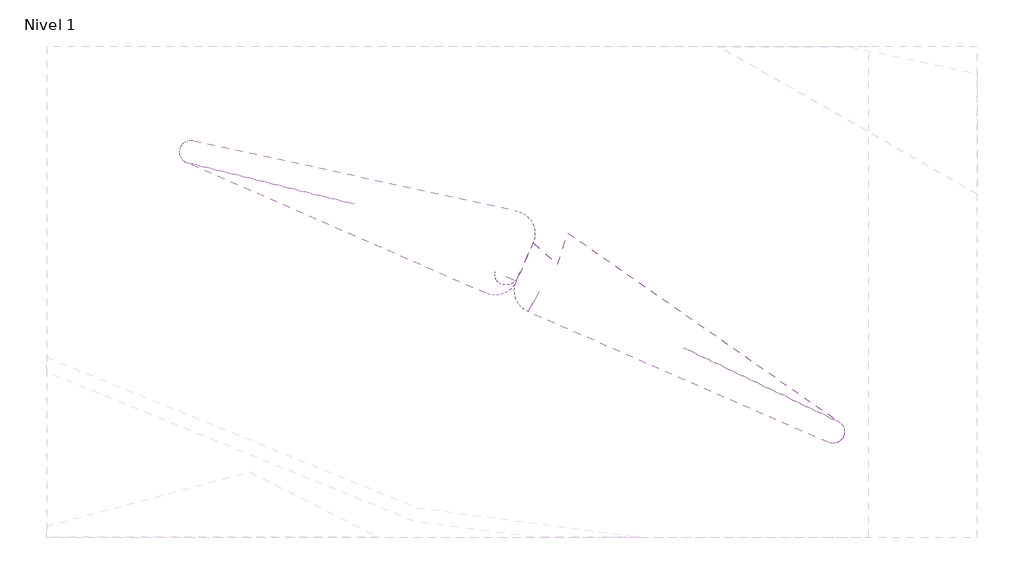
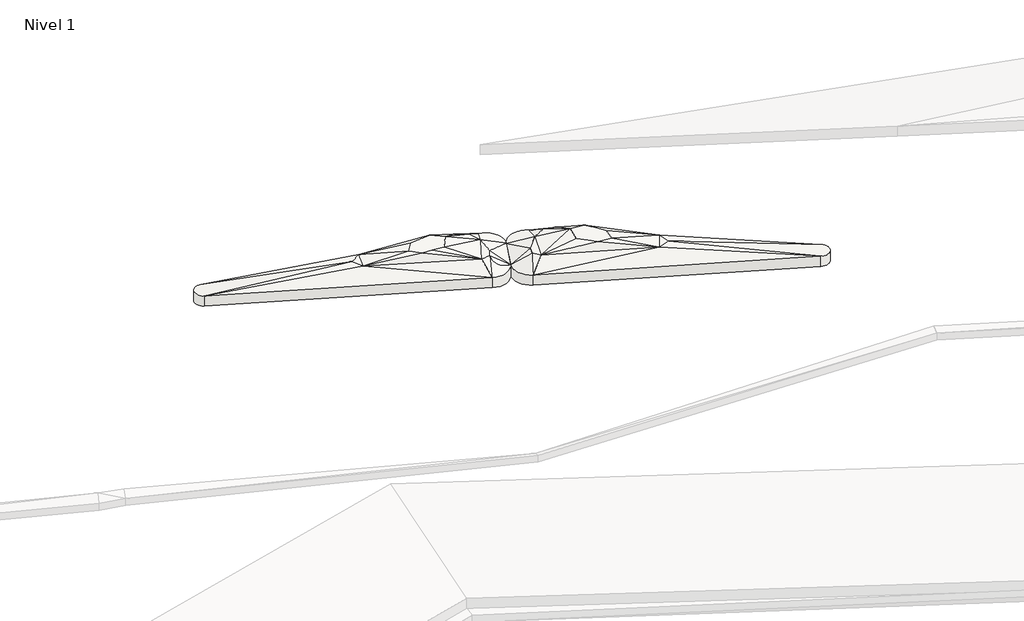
# One storey, part 5 of 45: 2 slabs.
"""IFC4 building model written with IfcOpenShell, lengths in millimetres."""

from ifc_helpers import new_model, si_unit, frame, origin, place, context, project, spatial, polyline, circle_curve, element, save
from ifc_brep_helpers import plane_surface, cylinder_surface, revolved_surface, spline_surface, advanced_brep

model = new_model("IFC4")

# Units and contexts
model_context = context("Model", 3, world=origin())
ifc_project = project(units=[si_unit("LENGTHUNIT", "METRE", prefix="MILLI")], contexts=[model_context])

# Site, building, storey
site = spatial("IfcSite", under=ifc_project)
building = spatial("IfcBuilding", under=site)
storey = spatial("IfcBuildingStorey", under=building, Name="Nivel 1", Elevation=0.0)

# Slabs
placement = place(None, origin())
element("IfcSlab", 1, ObjectType="Lippia", at=placement, inside=storey, context=model_context, shape_type="AdvancedBrep", body=[
    advanced_brep(
    [(-266436.9954868, -279796.5698564, 5200.0), (-266436.9954868, -279796.5698564, 5500.0), (-266080.1909589, -278977.5833169, 5500.0), (-266080.1909589, -278977.5833169, 5200.0), (-265334.7572833, -278767.8911903, 5500.0), (-265334.7572833, -278767.8911903, 5200.0), (-259539.6414001, -282803.3917584, 5500.0), (-259539.6414001, -282803.3917584, 5200.0), (-259783.5210915, -283237.2373408, 5200.0), (-259783.5210915, -283237.2373408, 5500.0), (-266178.7588919, -280450.930301, 5500.0), (-266178.7588919, -280450.930301, 5200.0), (-265554.3839523, -279433.7485007, 5800.0), (-265897.9113864, -279797.8444826, 5800.0), (-265554.3839523, -279433.7485007, 5500.0), (-265897.9113864, -279797.8444826, 5500.0), (-264086.1819932, -280334.0729657, 6000.0), (-264253.244329, -280097.3456845, 6000.0), (-264420.3066648, -279860.6184032, 6000.0), (-264797.5114532, -279824.2450052, 6000.0), (-264879.3945264, -280265.9703665, 6000.0), (-264669.5140962, -280464.3949465, 6000.0), (-264496.1786637, -280628.2692551, 6000.0), (-264124.1045599, -280667.4847596, 6000.0), (-264086.1819932, -280334.0729657, 5700.0), (-264124.1045599, -280667.4847596, 5700.0), (-264496.1786637, -280628.2692551, 5700.0), (-264669.5140962, -280464.3949465, 5700.0), (-264879.3945264, -280265.9703665, 5700.0), (-264797.5114532, -279824.2450052, 5700.0), (-264420.3066648, -279860.6184032, 5700.0), (-264253.244329, -280097.3456845, 5700.0), (-265812.8653929, -280199.9015581, 5800.0), (-265960.6536918, -280021.1394914, 5800.0), (-265812.8653929, -280199.9015581, 5500.0), (-265960.6536918, -280021.1394914, 5500.0), (-265227.4030927, -279275.0624162, 5800.0), (-265227.4030927, -279275.0624162, 5500.0), (-264879.3478395, -279379.7299694, 5800.0), (-262927.164911, -280893.6431045, 5800.0), (-262927.164911, -280893.6431045, 5500.0), (-264879.3478395, -279379.7299694, 5500.0), (-263178.2945002, -281321.222706, 5800.0), (-263178.2945002, -281321.222706, 5500.0), (-262864.7953573, -281217.7996345, 5800.0), (-262864.7953573, -281217.7996345, 5500.0)],
    [
        (0, 1),
        (1, 2),
        (2, 3),
        (3, 0),
        (2, 4, circle_curve(frame((-265621.8009566, -279177.2882211, 5500.0), z_axis=(0.0, 0.0, -1.0), x_axis=(0.3166549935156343, 0.9485407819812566, 0.0)), 499.9999992)),
        (4, 5),
        (5, 3, circle_curve(frame((-265621.8009566, -279177.2882211, 5200.0), z_axis=(0.0, 0.0, 1.0), x_axis=(0.3166549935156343, 0.9485407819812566, 0.0)), 499.9999992)),
        (4, 6),
        (6, 7),
        (7, 5),
        (8, 9),
        (9, 10),
        (10, 11),
        (11, 8),
        (10, 1, circle_curve(frame((-265977.3251654, -279993.3011345, 5500.0), z_axis=(0.0, 0.0, -1.0), x_axis=(0.3166549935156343, 0.9485407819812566, 0.0)), 500.0000001)),
        (0, 11, circle_curve(frame((-265977.3251654, -279993.3011345, 5200.0), z_axis=(0.0, 0.0, 1.0), x_axis=(0.3166549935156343, 0.9485407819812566, 0.0)), 500.0000001)),
        (2, 12),
        (12, 4),
        (1, 13),
        (13, 2),
        (5, 14),
        (14, 3),
        (3, 15),
        (15, 0),
        (16, 17),
        (17, 18),
        (18, 19),
        (19, 20),
        (20, 21),
        (21, 22),
        (22, 23),
        (23, 16),
        (24, 25),
        (25, 26),
        (26, 27),
        (27, 28),
        (28, 29),
        (29, 30),
        (30, 31),
        (31, 24),
        (20, 32),
        (32, 22),
        (10, 32),
        (32, 33),
        (33, 10),
        (19, 32),
        (26, 34),
        (34, 28),
        (11, 35),
        (35, 34),
        (34, 11),
        (34, 29),
        (32, 12),
        (12, 13),
        (13, 33),
        (19, 12),
        (12, 36),
        (36, 4),
        (35, 15),
        (15, 14),
        (14, 34),
        (14, 29),
        (5, 37),
        (37, 14),
        (4, 38),
        (38, 39),
        (39, 4),
        (19, 38),
        (38, 36),
        (36, 19),
        (5, 40),
        (40, 41),
        (41, 5),
        (29, 37),
        (37, 41),
        (41, 29),
        (22, 42),
        (42, 23),
        (23, 39),
        (39, 16),
        (39, 18),
        (25, 43),
        (43, 26),
        (24, 40),
        (40, 25),
        (30, 40),
        (42, 39),
        (40, 43),
        (1, 33),
        (35, 0),
        (10, 42),
        (42, 32),
        (42, 44),
        (44, 39),
        (18, 38),
        (34, 43),
        (43, 11),
        (40, 45),
        (45, 43),
        (41, 30),
        (6, 9, circle_curve(frame((-259682.5081754, -283008.5533001, 5500.0), z_axis=(0.0, 0.0, -1.0), x_axis=(0.3166549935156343, 0.9485407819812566, 0.0)), 249.9999994)),
        (8, 7, circle_curve(frame((-259682.5081754, -283008.5533001, 5200.0), z_axis=(0.0, 0.0, 1.0), x_axis=(0.3166549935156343, 0.9485407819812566, 0.0)), 249.9999994)),
        (9, 42),
        (9, 44),
        (6, 44),
        (6, 39),
        (43, 8),
        (45, 8),
        (45, 7),
        (40, 7),
    ],
    [
        plane_surface(frame((-266436.9954868, -279796.5698564, 5200.0), z_axis=(-0.9167736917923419, 0.3994070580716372, 0.0), x_axis=(0.0, 0.0, 1.0))),
        cylinder_surface(frame((-265621.8009566, -279177.2882211, 5500.0), z_axis=(0.0, 0.0, -1.0000000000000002), x_axis=(0.3166549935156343, 0.9485407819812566, 0.0)), 499.9999992),
        plane_surface(frame((-265334.7572833, -278767.8911903, 5200.0), z_axis=(0.5714571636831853, 0.820631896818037, 0.0), x_axis=(0.0, 0.0, 1.0))),
        plane_surface(frame((-259783.5210915, -283237.2373408, 5200.0), z_axis=(-0.3994214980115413, -0.9167674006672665, 0.0), x_axis=(0.0, 0.0, 1.0))),
        cylinder_surface(frame((-265977.3251654, -279993.3011345, 5500.0), z_axis=(0.0, 0.0, -1.0000000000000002), x_axis=(0.3166549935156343, 0.9485407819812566, 0.0)), 500.0000001),
        spline_surface(2, 1, [[(-265334.7572833, -278767.8911903, 5500.0), (-265554.3839523, -279433.7485007, 5800.0)], [(-265528.92266631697, -278631.75452936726, 5500.0), (-265554.3839523, -279433.7485007, 5800.0)], [(-265757.198378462, -278695.9696806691, 5500.0), (-265554.3839523, -279433.7485007, 5800.0)], [(-265985.4740905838, -278760.1848319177, 5500.0), (-265554.3839523, -279433.7485007, 5800.0)], [(-266080.1878017, -278977.5846924, 5500.0), (-265554.3839523, -279433.7485007, 5800.0)]], [3, 2, 3], [2, 2], [0.0, 1.0, 2.0], [0.0, 1.0], weights=[[1.0, 1.0], [0.9035324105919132, 0.9035324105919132], [1.0, 1.0], [0.9035324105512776, 0.9035324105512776], [1.0, 1.0]]),
        plane_surface(frame((-266138.3659441, -279523.9992187, 5600.0), z_axis=(-0.47535695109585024, 0.20709682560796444, 0.8550711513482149), x_axis=(-0.3994070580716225, -0.9167736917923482, 0.0))),
        spline_surface(1, 2, [[(-265334.7572833, -278767.8911903, 5200.0), (-265528.92266631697, -278631.75452936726, 5200.0), (-265757.198378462, -278695.9696806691, 5200.0), (-265985.4740905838, -278760.1848319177, 5200.0), (-266080.1878017, -278977.5846924, 5200.0)], [(-265554.3839523, -279433.7485007, 5500.0), (-265554.3839523, -279433.7485007, 5500.0), (-265554.3839523, -279433.7485007, 5500.0), (-265554.3839523, -279433.7485007, 5500.0), (-265554.3839523, -279433.7485007, 5500.0)]], [2, 2], [3, 2, 3], [0.0, 1.0], [0.0, 1.0, 2.0], weights=[[1.0, 0.9035324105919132, 1.0, 0.9035324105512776, 1.0], [1.0, 0.9035324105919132, 1.0, 0.9035324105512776, 1.0]]),
        plane_surface(frame((-266138.3659441, -279523.9992187, 5300.0), z_axis=(0.47535695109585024, -0.20709682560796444, -0.8550711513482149), x_axis=(-0.3994070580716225, -0.9167736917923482, 0.0))),
        plane_surface(frame((-264467.2796435, -280263.4434592, 6000.0), z_axis=(0.0, 0.0, 1.0000000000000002), x_axis=(-0.5765927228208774, 0.8170317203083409, 0.0))),
        plane_surface(frame((-264467.2796435, -280263.4434592, 5700.0), z_axis=(0.0, 0.0, -1.0000000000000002), x_axis=(-0.5765927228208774, 0.8170317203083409, 0.0))),
        plane_surface(frame((-265062.812861, -280364.7137266, 5933.3333333), z_axis=(-0.21945771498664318, -0.2321278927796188, 0.9476048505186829), x_axis=(-0.7266601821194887, 0.6869970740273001, 0.0))),
        plane_surface(frame((-265984.0926589, -280223.9904501, 5700.0), z_axis=(-0.43286294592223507, -0.3578615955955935, 0.8273842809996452), x_axis=(0.6831158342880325, 0.46866563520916, 0.5600939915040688))),
        plane_surface(frame((-265163.2571242, -280096.7056433, 5933.3333333), z_axis=(-0.2067513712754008, 0.038325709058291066, 0.9776425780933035), x_axis=(-0.9222637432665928, -0.3412154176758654, -0.18166349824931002))),
        plane_surface(frame((-265062.812861, -280364.7137266, 5633.3333333), z_axis=(0.21945771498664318, 0.2321278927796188, -0.9476048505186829), x_axis=(-0.7266601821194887, 0.6869970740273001, 0.0))),
        plane_surface(frame((-265984.0926589, -280223.9904501, 5400.0), z_axis=(0.43286294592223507, 0.3578615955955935, -0.8273842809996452), x_axis=(0.6831158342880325, 0.46866563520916, 0.5600939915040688))),
        plane_surface(frame((-265163.2571242, -280096.7056433, 5633.3333333), z_axis=(0.2067513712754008, -0.038325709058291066, -0.9776425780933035), x_axis=(-0.9222637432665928, -0.3412154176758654, -0.18166349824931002))),
        plane_surface(frame((-265806.4536059, -279863.1585082, 5800.0), z_axis=(0.0, 0.0, 1.0), x_axis=(0.31967292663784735, 0.9475279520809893, 0.0))),
        plane_surface(frame((-265388.2535995, -279819.2983547, 5866.6666667), z_axis=(-0.2189762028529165, 0.07387725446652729, 0.9729293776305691), x_axis=(-0.8651562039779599, 0.44636378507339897, -0.22861346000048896))),
        plane_surface(frame((-265372.1814428, -279158.9007024, 5700.0), z_axis=(-0.22359626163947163, 0.46073162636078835, 0.8589127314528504), x_axis=(-0.2879865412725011, -0.8731086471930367, 0.39337646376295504))),
        plane_surface(frame((-265844.1620992, -279403.0587668, 5700.0), z_axis=(-0.28808333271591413, 0.27180889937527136, 0.9182199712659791), x_axis=(0.20429920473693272, -0.9193498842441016, 0.3362404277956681))),
        plane_surface(frame((-265806.4536059, -279863.1585082, 5500.0), z_axis=(0.0, 0.0, -1.0), x_axis=(0.31967292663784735, 0.9475279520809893, 0.0))),
        plane_surface(frame((-265388.2535995, -279819.2983547, 5566.6666667), z_axis=(0.2189762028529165, -0.07387725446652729, -0.9729293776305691), x_axis=(-0.8651562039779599, 0.44636378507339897, -0.22861346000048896))),
        plane_surface(frame((-265372.1814428, -279158.9007024, 5400.0), z_axis=(0.22359626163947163, -0.46073162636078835, -0.8589127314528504), x_axis=(-0.2879865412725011, -0.8731086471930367, 0.39337646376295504))),
        plane_surface(frame((-265844.1620992, -279403.0587668, 5400.0), z_axis=(0.28808333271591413, -0.27180889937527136, -0.9182199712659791), x_axis=(0.20429920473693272, -0.9193498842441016, 0.3362404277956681))),
        plane_surface(frame((-264380.4233446, -279680.4214214, 5700.0), z_axis=(0.5064349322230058, 0.6530451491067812, 0.5630769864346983), x_axis=(0.5556482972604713, -0.7465088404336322, 0.366032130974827))),
        plane_surface(frame((-264968.0874618, -279493.0124636, 5866.6666667), z_axis=(0.12824608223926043, 0.4264618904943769, 0.8953676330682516), x_axis=(-0.16557428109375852, 0.8993585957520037, -0.40464709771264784))),
        plane_surface(frame((-264380.4233446, -279680.4214214, 5400.0), z_axis=(-0.5064349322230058, -0.6530451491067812, -0.5630769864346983), x_axis=(0.5556482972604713, -0.7465088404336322, 0.366032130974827))),
        plane_surface(frame((-264968.0874618, -279493.0124636, 5566.6666667), z_axis=(-0.12824608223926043, -0.4264618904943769, -0.8953676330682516), x_axis=(-0.16557428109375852, 0.8993585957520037, -0.40464709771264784))),
        plane_surface(frame((-263932.8592413, -280872.3255736, 5933.3333333), z_axis=(-0.03576283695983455, -0.3393154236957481, 0.9399925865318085), x_axis=(-0.9944915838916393, 0.10481645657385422, 0.0))),
        plane_surface(frame((-263712.4838214, -280631.7336099, 5933.3333333), z_axis=(0.16140464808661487, -0.0183583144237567, 0.9867175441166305), x_axis=(-0.11301225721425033, -0.9935935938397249, 0.0))),
        plane_surface(frame((-263811.2178563, -280362.7781578, 5933.3333333), z_axis=(0.24926117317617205, 0.17590770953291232, 0.9523262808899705), x_axis=(0.8898579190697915, -0.4296208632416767, -0.15355389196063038))),
        plane_surface(frame((-263932.8592413, -280872.3255736, 5633.3333333), z_axis=(0.03576283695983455, 0.3393154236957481, -0.9399925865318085), x_axis=(-0.9944915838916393, 0.10481645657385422, 0.0))),
        plane_surface(frame((-263712.4838214, -280631.7336099, 5633.3333333), z_axis=(-0.16140464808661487, 0.0183583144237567, -0.9867175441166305), x_axis=(-0.11301225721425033, -0.9935935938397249, 0.0))),
        plane_surface(frame((-263811.2178563, -280362.7781578, 5633.3333333), z_axis=(-0.24926117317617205, -0.17590770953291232, -0.9523262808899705), x_axis=(0.8898579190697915, -0.4296208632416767, -0.15355389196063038))),
        plane_surface(frame((-263409.854657, -280960.7835234, 5866.6666667), z_axis=(0.14816508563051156, -0.08702154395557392, 0.9851265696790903), x_axis=(0.8104505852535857, -0.5601783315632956, -0.17137702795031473))),
        plane_surface(frame((-263409.854657, -280960.7835234, 5566.6666667), z_axis=(-0.14816508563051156, 0.08702154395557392, -0.9851265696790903), x_axis=(0.8104505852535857, -0.5601783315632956, -0.17137702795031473))),
        plane_surface(frame((-266098.5201884, -279871.8512768, 5700.0), z_axis=(-0.4815566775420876, 0.13530967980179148, 0.8659067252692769), x_axis=(0.7859387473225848, -0.3705280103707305, 0.49498411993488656))),
        spline_surface(2, 1, [[(-266436.9954868, -279796.5698564, 5500.0), (-265960.6536918, -280021.1394914, 5800.0)], [(-266631.72000404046, -280251.5513027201, 5500.0), (-265960.6536918, -280021.1394914, 5800.0)], [(-266178.7588919, -280450.930301, 5500.0), (-265960.6536918, -280021.1394914, 5800.0)]], [3, 3], [2, 2], [0.0, 1.0], [0.0, 1.0], weights=[[1.0, 1.0], [0.7107223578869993, 0.7107223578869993], [1.0, 1.0]]),
        plane_surface(frame((-266098.5201884, -279871.8512768, 5400.0), z_axis=(0.4815566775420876, -0.13530967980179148, -0.8659067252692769), x_axis=(0.7859387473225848, -0.3705280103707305, 0.49498411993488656))),
        spline_surface(1, 2, [[(-266436.9954868, -279796.5698564, 5200.0), (-266631.72000404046, -280251.5513027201, 5200.0), (-266178.7588919, -280450.930301, 5200.0)], [(-265960.6536918, -280021.1394914, 5500.0), (-265960.6536918, -280021.1394914, 5500.0), (-265960.6536918, -280021.1394914, 5500.0)]], [2, 2], [3, 3], [0.0, 1.0], [0.0, 1.0], weights=[[1.0, 0.7107223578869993, 1.0], [1.0, 0.7107223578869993, 1.0]]),
        plane_surface(frame((-265193.0994994, -279511.0186407, 5866.6666667), z_axis=(-0.12290191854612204, 0.25324574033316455, 0.959563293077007), x_axis=(-0.5925126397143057, 0.7569294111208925, -0.27565674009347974))),
        plane_surface(frame((-265193.0994994, -279511.0186407, 5566.6666667), z_axis=(0.12290191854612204, -0.25324574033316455, -0.959563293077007), x_axis=(-0.5925126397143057, 0.7569294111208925, -0.27565674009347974))),
        plane_surface(frame((-265056.639595, -280657.3515217, 5700.0), z_axis=(-0.2449350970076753, -0.575480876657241, 0.7802746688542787), x_axis=(0.9560179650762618, -0.27729546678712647, 0.09558699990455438))),
        plane_surface(frame((-262990.0849228, -281144.221815, 5800.0), z_axis=(0.0, 0.0, 1.0), x_axis=(-0.5064389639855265, -0.8622758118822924, 0.0))),
        plane_surface(frame((-264699.0553192, -279688.1977926, 5933.3333333), z_axis=(0.04012538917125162, 0.4161142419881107, 0.9084266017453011), x_axis=(0.9953829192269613, -0.09598356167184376, 0.0))),
        plane_surface(frame((-265147.1694052, -279140.8945253, 5700.0), z_axis=(0.1585778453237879, 0.5273253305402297, 0.8347341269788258), x_axis=(0.1792356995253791, -0.8467595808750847, 0.5008720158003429))),
        plane_surface(frame((-265056.639595, -280657.3515217, 5400.0), z_axis=(0.2449350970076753, 0.575480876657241, -0.7802746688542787), x_axis=(0.9560179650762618, -0.27729546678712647, 0.09558699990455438))),
        plane_surface(frame((-262990.0849228, -281144.221815, 5500.0), z_axis=(0.0, 0.0, -1.0), x_axis=(-0.5064389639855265, -0.8622758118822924, 0.0))),
        plane_surface(frame((-264699.0553192, -279688.1977926, 5633.3333333), z_axis=(-0.04012538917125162, -0.4161142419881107, -0.9084266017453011), x_axis=(0.9953829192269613, -0.09598356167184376, 0.0))),
        plane_surface(frame((-265147.1694052, -279140.8945253, 5400.0), z_axis=(-0.1585778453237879, -0.5273253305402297, -0.8347341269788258), x_axis=(0.1792356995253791, -0.8467595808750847, 0.5008720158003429))),
        plane_surface(frame((-264495.7795189, -280716.4645064, 5866.6666667), z_axis=(-0.3347070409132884, -0.7864022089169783, 0.5191750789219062), x_axis=(-0.9411719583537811, 0.3061986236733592, -0.1429606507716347))),
        plane_surface(frame((-264495.7795189, -280716.4645064, 5566.6666667), z_axis=(0.3347070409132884, 0.7864022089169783, -0.5191750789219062), x_axis=(-0.9411719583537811, 0.3061986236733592, -0.1429606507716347))),
        plane_surface(frame((-264075.6064718, -280044.6638257, 5866.6666667), z_axis=(0.549540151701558, 0.7086291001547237, 0.44254990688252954), x_axis=(0.8174254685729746, -0.5655328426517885, -0.10949067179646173))),
        plane_surface(frame((-264075.6064718, -280044.6638257, 5566.6666667), z_axis=(-0.549540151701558, -0.7086291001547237, -0.44254990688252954), x_axis=(0.8174254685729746, -0.5655328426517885, -0.10949067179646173))),
        cylinder_surface(frame((-259682.5081754, -283008.5533001, 5500.0), z_axis=(0.0, 0.0, -1.0000000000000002), x_axis=(0.3166549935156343, 0.9485407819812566, 0.0)), 249.9999994),
        plane_surface(frame((-263046.8581612, -281669.7967826, 5600.0), z_axis=(-0.23942518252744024, -0.5495377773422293, 0.8004272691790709), x_axis=(0.9167674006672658, -0.39942149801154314, 0.0))),
        plane_surface(frame((-261942.2036497, -281925.4198938, 5700.0), z_axis=(0.032424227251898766, -0.09828529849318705, 0.9946299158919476), x_axis=(0.8682995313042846, -0.490069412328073, -0.07673262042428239))),
        spline_surface(2, 1, [[(-259783.5210915, -283237.2373408, 5500.0), (-262864.7953573, -281217.7996345, 5800.0)], [(-259575.835894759, -283328.97477595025, 5500.0), (-262864.7953573, -281217.7996345, 5800.0)], [(-259464.58018787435, -283131.05796100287, 5500.0), (-262864.7953573, -281217.7996345, 5800.0)], [(-259353.32448100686, -282933.1411460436, 5500.0), (-262864.7953573, -281217.7996345, 5800.0)], [(-259539.6438848, -282803.3953264, 5500.0), (-262864.7953573, -281217.7996345, 5800.0)]], [3, 2, 3], [2, 2], [0.0, 1.0, 2.0], [0.0, 1.0], weights=[[1.0, 1.0], [0.7402773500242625, 0.7402773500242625], [1.0, 1.0], [0.7402773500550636, 0.7402773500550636], [1.0, 1.0]]),
        plane_surface(frame((-261777.2005562, -281638.2781658, 5700.0), z_axis=(0.09883084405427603, 0.019015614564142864, 0.9949225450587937), x_axis=(0.18894017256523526, -0.9819886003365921, 0.0))),
        plane_surface(frame((-262600.5211981, -280821.6420177, 5600.0), z_axis=(0.36071366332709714, 0.5179970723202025, 0.7756060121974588), x_axis=(0.7463717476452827, -0.6589990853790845, 0.09300225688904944))),
        plane_surface(frame((-263046.8581612, -281669.7967826, 5300.0), z_axis=(0.23942518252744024, 0.5495377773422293, -0.8004272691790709), x_axis=(0.9167674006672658, -0.39942149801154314, 0.0))),
        plane_surface(frame((-261942.2036497, -281925.4198938, 5400.0), z_axis=(-0.032424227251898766, 0.09828529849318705, -0.9946299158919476), x_axis=(0.8682995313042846, -0.490069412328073, -0.07673262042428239))),
        spline_surface(1, 2, [[(-259783.5210915, -283237.2373408, 5200.0), (-259575.835894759, -283328.97477595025, 5200.0), (-259464.58018787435, -283131.05796100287, 5200.0), (-259353.32448100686, -282933.1411460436, 5200.0), (-259539.6438848, -282803.3953264, 5200.0)], [(-262864.7953573, -281217.7996345, 5500.0), (-262864.7953573, -281217.7996345, 5500.0), (-262864.7953573, -281217.7996345, 5500.0), (-262864.7953573, -281217.7996345, 5500.0), (-262864.7953573, -281217.7996345, 5500.0)]], [2, 2], [3, 2, 3], [0.0, 1.0], [0.0, 1.0, 2.0], weights=[[1.0, 0.7402773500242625, 1.0, 0.7402773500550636, 1.0], [1.0, 0.7402773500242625, 1.0, 0.7402773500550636, 1.0]]),
        plane_surface(frame((-261777.2005562, -281638.2781658, 5400.0), z_axis=(-0.09883084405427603, -0.019015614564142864, -0.9949225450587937), x_axis=(0.18894017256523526, -0.9819886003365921, 0.0))),
        plane_surface(frame((-262600.5211981, -280821.6420177, 5300.0), z_axis=(-0.36071366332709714, -0.5179970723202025, -0.7756060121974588), x_axis=(0.7463717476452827, -0.6589990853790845, 0.09300225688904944))),
    ],
    [
        (0, [[1, 2, 3, 4]]),
        (1, [[-3, 5, 6, 7]]),
        (2, [[-6, 8, 9, 10]]),
        (3, [[11, 12, 13, 14]]),
        (4, [[-13, 15, -1, 16]]),
        (5, [[-5, 17, 18]]),
        (6, [[-2, 19, 20]]),
        (7, [[21, 22, -7]]),
        (8, [[23, 24, -4]]),
        (9, [[25, 26, 27, 28, 29, 30, 31, 32]]),
        (10, [[33, 34, 35, 36, 37, 38, 39, 40]]),
        (11, [[-29, 41, 42, -30]]),
        (12, [[43, 44, 45]]),
        (13, [[46, -41, -28]]),
        (14, [[-35, 47, 48, -36]]),
        (15, [[49, 50, 51]]),
        (16, [[-37, -48, 52]]),
        (17, [[53, 54, 55, -44]]),
        (18, [[56, -53, -46]]),
        (19, [[-18, 57, 58]]),
        (20, [[-20, -54, -17]]),
        (21, [[-50, 59, 60, 61]]),
        (22, [[-52, -61, 62]]),
        (23, [[63, 64, -21]]),
        (24, [[-22, -60, -23]]),
        (25, [[65, 66, 67]]),
        (26, [[68, 69, 70]]),
        (27, [[71, 72, 73]]),
        (28, [[74, 75, 76]]),
        (29, [[-31, 77, 78]]),
        (30, [[-32, 79, 80]]),
        (31, [[-80, 81, -26, -25]]),
        (32, [[82, 83, -34]]),
        (33, [[84, 85, -33]]),
        (34, [[-40, -39, 86, -84]]),
        (35, [[-78, 87, -79]]),
        (36, [[-85, 88, -82]]),
        (37, [[89, -55, -19]]),
        (38, [[-45, -89, -15]]),
        (39, [[-24, -59, 90]]),
        (40, [[-16, -90, -49]]),
        (41, [[-70, -57, -56]]),
        (42, [[-62, -64, -74]]),
        (43, [[91, 92, -43]]),
        (44, [[-87, 93, 94]]),
        (45, [[-27, 95, -68]]),
        (46, [[-58, -69, -65]]),
        (47, [[-51, 96, 97]]),
        (48, [[98, 99, -88]]),
        (49, [[-76, 100, -38]]),
        (50, [[-73, -75, -63]]),
        (51, [[-42, -92, -77]]),
        (52, [[-83, -96, -47]]),
        (53, [[-81, -66, -95]]),
        (54, [[-100, -72, -86]]),
        (55, [[-9, 101, -11, 102]]),
        (56, [[-12, 103, -91]]),
        (57, [[-103, 104, -93]]),
        (58, [[-104, -101, 105]]),
        (59, [[-94, -105, 106]]),
        (60, [[-67, -106, -8]]),
        (61, [[-97, 107, -14]]),
        (62, [[-99, 108, -107]]),
        (63, [[109, -102, -108]]),
        (64, [[110, -109, -98]]),
        (65, [[-10, -110, -71]]),
    ],
),
])
element("IfcSlab", 2, ObjectType="Lippia", at=placement, inside=storey, context=model_context, shape_type="AdvancedBrep", body=[
    advanced_brep(
    [(-266070.8633971, -278956.2126789, 5200.0), (-266070.8633971, -278956.2126789, 5500.0), (-266437.5240042, -279796.2751645, 5500.0), (-266437.5240042, -279796.2751645, 5200.0), (-266462.9478262, -278284.2773187, 5200.0), (-266462.9478262, -278284.2773187, 5500.0), (-273321.9948807, -276791.6399068, 5200.0), (-273321.9948807, -276791.6399068, 5500.0), (-267092.7513863, -280052.3040847, 5200.0), (-267092.7513863, -280052.3040847, 5500.0), (-273502.858652, -277250.8320501, 5500.0), (-273502.858652, -277250.8320501, 5200.0), (-267856.7224697, -278362.0465437, 6000.0), (-268431.0220694, -278439.3672315, 6000.0), (-268637.6010327, -278700.5685196, 6000.0), (-268403.8599495, -278942.7094566, 6000.0), (-268129.5900454, -278955.5056781, 6000.0), (-267819.0304808, -278980.4196114, 6000.0), (-267573.3978179, -278613.7082574, 6000.0), (-266759.9275354, -278903.3986489, 5800.0), (-266793.1766272, -279407.5275899, 5800.0), (-267856.7224697, -278362.0465437, 5700.0), (-267573.3978179, -278613.7082574, 5700.0), (-267819.0304808, -278980.4196114, 5700.0), (-268129.5900454, -278955.5056781, 5700.0), (-268403.8599495, -278942.7094566, 5700.0), (-268637.6010327, -278700.5685196, 5700.0), (-268431.0220694, -278439.3672315, 5700.0), (-266759.9275354, -278903.3986489, 5500.0), (-266793.1766272, -279407.5275899, 5500.0), (-269617.9961963, -277976.9669863, 5800.0), (-269760.3255521, -278451.9746726, 5800.0), (-269617.9961963, -277976.9669863, 5500.0), (-269760.3255521, -278451.9746726, 5500.0), (-267144.5350359, -279619.3707059, 5800.0), (-266894.4714263, -279593.2996647, 5800.0), (-267144.5350359, -279619.3707059, 5500.0), (-266894.4714263, -279593.2996647, 5500.0), (-266867.6556347, -278559.0901291, 5800.0), (-266867.6556347, -278559.0901291, 5500.0), (-267179.0419798, -278376.9027415, 5800.0), (-267179.0419798, -278376.9027415, 5500.0), (-269897.9292484, -278151.9095586, 5800.0), (-269897.9292484, -278151.9095586, 5500.0)],
    [
        (0, 1),
        (1, 2),
        (2, 3),
        (3, 0),
        (4, 5),
        (5, 1, circle_curve(frame((-266538.2443351, -278778.5752412, 5500.0), z_axis=(0.0, 0.0, -1.0), x_axis=(-0.5679356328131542, 0.8230729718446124, 0.0)), 500.0000005)),
        (0, 4, circle_curve(frame((-266538.2443351, -278778.5752412, 5200.0), z_axis=(0.0, 0.0, 1.0), x_axis=(-0.5679356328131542, 0.8230729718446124, 0.0)), 500.0000005)),
        (6, 7),
        (7, 5),
        (4, 6),
        (8, 9),
        (9, 10),
        (10, 11),
        (11, 8),
        (2, 9, circle_curve(frame((-266894.4714263, -279593.2996647, 5500.0), z_axis=(0.0, 0.0, -1.0), x_axis=(-0.5679356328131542, 0.8230729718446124, 0.0)), 500.0000001)),
        (8, 3, circle_curve(frame((-266894.4714263, -279593.2996647, 5200.0), z_axis=(0.0, 0.0, 1.0), x_axis=(-0.5679356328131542, 0.8230729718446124, 0.0)), 500.0000001)),
        (12, 13),
        (13, 14),
        (14, 15),
        (15, 16),
        (16, 17),
        (17, 18),
        (18, 12),
        (5, 19),
        (19, 1),
        (1, 20),
        (20, 2),
        (21, 22),
        (22, 23),
        (23, 24),
        (24, 25),
        (25, 26),
        (26, 27),
        (27, 21),
        (0, 28),
        (28, 4),
        (3, 29),
        (29, 0),
        (13, 30),
        (30, 14),
        (14, 31),
        (31, 15),
        (26, 32),
        (32, 27),
        (25, 33),
        (33, 26),
        (30, 31),
        (12, 30),
        (33, 32),
        (32, 21),
        (34, 9),
        (9, 35),
        (35, 34),
        (16, 34),
        (34, 17),
        (36, 37),
        (37, 8),
        (8, 36),
        (23, 36),
        (36, 24),
        (2, 35),
        (35, 20),
        (20, 19),
        (19, 34),
        (37, 3),
        (36, 28),
        (28, 29),
        (29, 37),
        (19, 17),
        (19, 18),
        (5, 38),
        (38, 19),
        (23, 28),
        (22, 28),
        (28, 39),
        (39, 4),
        (40, 18),
        (18, 38),
        (38, 40),
        (40, 5),
        (5, 30),
        (30, 40),
        (41, 39),
        (39, 22),
        (22, 41),
        (41, 32),
        (32, 4),
        (4, 41),
        (34, 15),
        (31, 34),
        (31, 9),
        (36, 33),
        (25, 36),
        (8, 33),
        (40, 12),
        (21, 41),
        (42, 31),
        (30, 42),
        (43, 32),
        (33, 43),
        (10, 7, circle_curve(frame((-273375.1199502, -277035.9301572, 5500.0), z_axis=(0.0, 0.0, -1.0), x_axis=(-0.5679356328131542, 0.8230729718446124, 0.0)), 249.999999)),
        (6, 11, circle_curve(frame((-273375.1199502, -277035.9301572, 5200.0), z_axis=(0.0, 0.0, 1.0), x_axis=(-0.5679356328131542, 0.8230729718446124, 0.0)), 249.999999)),
        (31, 10),
        (42, 10),
        (42, 7),
        (30, 7),
        (11, 33),
        (11, 43),
        (6, 43),
        (6, 32),
    ],
    [
        plane_surface(frame((-266070.8633971, -278956.2126789, 5200.0), z_axis=(0.9165042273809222, -0.4000250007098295, 0.0), x_axis=(0.0, 0.0, 1.0))),
        cylinder_surface(frame((-266538.2443351, -278778.5752412, 5500.0), z_axis=(0.0, 0.0, -1.0), x_axis=(-0.5679356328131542, 0.8230729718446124, 0.0)), 500.0000005),
        plane_surface(frame((-273321.9948807, -276791.6399068, 5200.0), z_axis=(0.21263915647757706, 0.9771307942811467, 0.0), x_axis=(0.0, 0.0, 1.0))),
        plane_surface(frame((-267092.7513863, -280052.3040847, 5200.0), z_axis=(-0.4004648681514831, -0.91631211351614, 0.0), x_axis=(0.0, 0.0, 1.0))),
        cylinder_surface(frame((-266894.4714263, -279593.2996647, 5500.0), z_axis=(0.0, 0.0, -1.0), x_axis=(-0.5679356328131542, 0.8230729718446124, 0.0)), 500.0000001),
        plane_surface(frame((-268121.6034093, -278713.4750426, 6000.0), z_axis=(0.0, 0.0, 1.0000000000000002), x_axis=(-0.9910581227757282, -0.1334308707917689, 0.0))),
        spline_surface(2, 1, [[(-266070.8633971, -278956.2126789, 5500.0), (-266759.9275354, -278903.3986489, 5800.0)], [(-265985.9928814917, -278732.9103069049, 5500.0), (-266759.9275354, -278903.3986489, 5800.0)], [(-266106.3890527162, -278526.58116278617, 5500.0), (-266759.9275354, -278903.3986489, 5800.0)], [(-266226.78522391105, -278320.252018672, 5500.0), (-266759.9275354, -278903.3986489, 5800.0)], [(-266462.9478262, -278284.2773187, 5500.0), (-266759.9275354, -278903.3986489, 5800.0)]], [3, 2, 3], [2, 2], [0.0, 1.0, 2.0], [0.0, 1.0], weights=[[1.0, 1.0], [0.9023052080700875, 0.9023052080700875], [1.0, 1.0], [0.9023052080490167, 0.9023052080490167], [1.0, 1.0]]),
        plane_surface(frame((-266433.8546761, -279386.6718111, 5600.0), z_axis=(0.48468141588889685, -0.21154805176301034, 0.8487233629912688), x_axis=(0.4000250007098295, 0.9165042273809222, 0.0))),
        plane_surface(frame((-268121.6034093, -278713.4750426, 5700.0), z_axis=(0.0, 0.0, -1.0000000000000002), x_axis=(-0.9910581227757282, -0.1334308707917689, 0.0))),
        spline_surface(1, 2, [[(-266070.8633971, -278956.2126789, 5200.0), (-265985.9928814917, -278732.9103069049, 5200.0), (-266106.3890527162, -278526.58116278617, 5200.0), (-266226.78522391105, -278320.252018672, 5200.0), (-266462.9478262, -278284.2773187, 5200.0)], [(-266759.9275354, -278903.3986489, 5500.0), (-266759.9275354, -278903.3986489, 5500.0), (-266759.9275354, -278903.3986489, 5500.0), (-266759.9275354, -278903.3986489, 5500.0), (-266759.9275354, -278903.3986489, 5500.0)]], [2, 2], [3, 2, 3], [0.0, 1.0], [0.0, 1.0, 2.0], weights=[[1.0, 0.9023052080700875, 1.0, 0.9023052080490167, 1.0], [1.0, 0.9023052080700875, 1.0, 0.9023052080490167, 1.0]]),
        plane_surface(frame((-266433.8546761, -279386.6718111, 5300.0), z_axis=(-0.48468141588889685, 0.21154805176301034, -0.8487233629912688), x_axis=(0.4000250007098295, 0.9165042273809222, 0.0))),
        plane_surface(frame((-268895.5397661, -278372.3009124, 5933.3333333), z_axis=(-0.12710711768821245, 0.10052652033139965, 0.9867817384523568), x_axis=(0.620323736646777, 0.7843458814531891, 0.0))),
        plane_surface(frame((-268933.9288447, -278698.4175496, 5933.3333333), z_axis=(-0.2161021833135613, -0.20860561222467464, 0.9538257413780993), x_axis=(-0.6945173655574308, 0.7194759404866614, 0.0))),
        plane_surface(frame((-268895.5397661, -278372.3009124, 5633.3333333), z_axis=(0.12710711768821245, -0.10052652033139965, -0.9867817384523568), x_axis=(0.620323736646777, 0.7843458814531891, 0.0))),
        plane_surface(frame((-268933.9288447, -278698.4175496, 5633.3333333), z_axis=(0.2161021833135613, 0.20860561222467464, -0.9538257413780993), x_axis=(-0.6945173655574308, 0.7194759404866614, 0.0))),
        plane_surface(frame((-269338.640927, -278376.5033928, 5866.6666667), z_axis=(-0.1645709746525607, 0.049311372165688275, 0.9851318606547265), x_axis=(0.9619120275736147, -0.21298671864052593, 0.1713531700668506))),
        plane_surface(frame((-268635.2469118, -278259.4602538, 5933.3333333), z_axis=(-0.04116538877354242, 0.30575602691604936, 0.9512195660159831), x_axis=(0.9205163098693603, -0.3585983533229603, 0.1551030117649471))),
        plane_surface(frame((-269338.640927, -278376.5033928, 5566.6666667), z_axis=(0.1645709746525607, -0.049311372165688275, -0.9851318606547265), x_axis=(0.9619120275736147, -0.21298671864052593, 0.1713531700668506))),
        plane_surface(frame((-268635.2469118, -278259.4602538, 5633.3333333), z_axis=(0.04116538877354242, -0.30575602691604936, -0.9512195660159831), x_axis=(0.9205163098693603, -0.3585983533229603, 0.1551030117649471))),
        plane_surface(frame((-267043.9192829, -279754.9914851, 5700.0), z_axis=(0.05878261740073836, -0.5638207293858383, 0.8238026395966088), x_axis=(0.09784218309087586, -0.8180023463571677, -0.566832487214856))),
        plane_surface(frame((-267697.7185207, -279185.0986651, 5933.3333333), z_axis=(-0.025949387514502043, -0.32346680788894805, 0.9458836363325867), x_axis=(-0.996797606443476, 0.07996581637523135, 0.0))),
        plane_surface(frame((-267043.9192829, -279754.9914851, 5400.0), z_axis=(-0.05878261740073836, 0.5638207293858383, -0.8238026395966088), x_axis=(0.09784218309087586, -0.8180023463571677, -0.566832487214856))),
        plane_surface(frame((-267697.7185207, -279185.0986651, 5633.3333333), z_axis=(0.025949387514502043, 0.32346680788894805, -0.9458836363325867), x_axis=(-0.996797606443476, 0.07996581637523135, 0.0))),
        revolved_surface(polyline([(-266894.4714263, -279593.2996647, 5800.0), (-267092.75138630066, -280052.30408470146, 5499.999999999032)]), (-266894.4714263, -279593.2996647, 5800.0), (1.3860699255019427e-12, 0.0, -1.0)),
        plane_surface(frame((-266898.0276562, -279380.8991523, 5800.0), z_axis=(0.0, 0.0, 1.0), x_axis=(0.47872310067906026, 0.8779659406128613, 0.0))),
        plane_surface(frame((-266708.3906859, -279599.0341397, 5700.0), z_axis=(0.4528057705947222, -0.2468986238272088, 0.8567426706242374), x_axis=(0.7836583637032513, -0.3481001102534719, -0.5144957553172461))),
        revolved_surface(polyline([(-266437.5240041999, -279796.27516450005, 5199.99999999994), (-266894.4714263, -279593.2996647, 5500.0)]), (-266894.4714263, -279593.2996647, 5500.0), (1.3860699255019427e-12, 0.0, -1.0)),
        plane_surface(frame((-266898.0276562, -279380.8991523, 5500.0), z_axis=(0.0, 0.0, -1.0), x_axis=(0.47872310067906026, 0.8779659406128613, 0.0))),
        plane_surface(frame((-266708.3906859, -279599.0341397, 5400.0), z_axis=(-0.4528057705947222, 0.2468986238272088, -0.8567426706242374), x_axis=(0.7836583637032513, -0.3481001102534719, -0.5144957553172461))),
        plane_surface(frame((-267241.1643507, -279167.7296554, 5866.6666667), z_axis=(0.19180170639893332, -0.10303247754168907, 0.9760104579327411), x_axis=(-0.9801336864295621, -0.07127809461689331, 0.18508751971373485))),
        plane_surface(frame((-267384.1186114, -278832.5088392, 5933.3333333), z_axis=(0.19307432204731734, -0.12932612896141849, 0.9726238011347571), x_axis=(-0.9177532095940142, 0.3268272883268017, 0.22563902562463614))),
        plane_surface(frame((-266696.8436654, -278582.2553655, 5700.0), z_axis=(0.5148068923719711, 0.16107405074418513, 0.8420386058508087), x_axis=(0.39632250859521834, 0.8262238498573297, -0.40035311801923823))),
        plane_surface(frame((-266541.3225199, -279089.0463059, 5700.0), z_axis=(0.397355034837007, -0.026206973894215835, 0.9172906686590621), x_axis=(0.7998977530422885, 0.4997911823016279, -0.33222335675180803))),
        plane_surface(frame((-267241.1643507, -279167.7296554, 5566.6666667), z_axis=(-0.19180170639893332, 0.10303247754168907, -0.9760104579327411), x_axis=(-0.9801336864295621, -0.07127809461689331, 0.18508751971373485))),
        plane_surface(frame((-267384.1186114, -278832.5088392, 5633.3333333), z_axis=(-0.19307432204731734, 0.12932612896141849, -0.9726238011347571), x_axis=(-0.9177532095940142, 0.3268272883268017, 0.22563902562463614))),
        plane_surface(frame((-266696.8436654, -278582.2553655, 5400.0), z_axis=(-0.5148068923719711, -0.16107405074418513, -0.8420386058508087), x_axis=(0.39632250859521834, 0.8262238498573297, -0.40035311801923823))),
        plane_surface(frame((-266541.3225199, -279089.0463059, 5400.0), z_axis=(-0.397355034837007, 0.026206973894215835, -0.9172906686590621), x_axis=(0.7998977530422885, 0.4997911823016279, -0.33222335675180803))),
        plane_surface(frame((-267206.6984775, -278516.5670426, 5866.6666667), z_axis=(0.22425274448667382, 0.3832825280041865, 0.8959939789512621), x_axis=(-0.7862101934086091, -0.47210892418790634, 0.3987313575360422))),
        plane_surface(frame((-267753.3286674, -278212.7156822, 5700.0), z_axis=(0.13313023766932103, 0.8118767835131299, 0.5684473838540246), x_axis=(0.9158365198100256, 0.11846171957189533, -0.3836799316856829))),
        plane_surface(frame((-267206.6984775, -278516.5670426, 5566.6666667), z_axis=(-0.22425274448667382, -0.3832825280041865, -0.8959939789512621), x_axis=(-0.7862101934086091, -0.47210892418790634, 0.3987313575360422))),
        plane_surface(frame((-267753.3286674, -278212.7156822, 5400.0), z_axis=(-0.13313023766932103, -0.8118767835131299, -0.5684473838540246), x_axis=(0.9158365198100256, 0.11846171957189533, -0.3836799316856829))),
        plane_surface(frame((-267066.9936627, -278692.0656784, 5866.6666667), z_axis=(0.2657468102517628, 0.08314751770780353, 0.9604504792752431), x_axis=(-0.9594565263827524, -0.0742533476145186, 0.27190000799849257))),
        plane_surface(frame((-267066.9936627, -278692.0656784, 5566.6666667), z_axis=(-0.2657468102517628, -0.08314751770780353, -0.9604504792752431), x_axis=(-0.9594565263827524, -0.0742533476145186, 0.27190000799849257))),
        plane_surface(frame((-268436.2401792, -279004.684945, 5866.6666667), z_axis=(-0.3610705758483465, -0.8090527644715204, 0.4637474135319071), x_axis=(-0.8723945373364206, 0.46875557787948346, 0.13854955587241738))),
        plane_surface(frame((-267892.6616769, -279172.5286135, 5933.3333333), z_axis=(-0.014365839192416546, -0.30791256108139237, 0.9513061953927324), x_axis=(-0.8177475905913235, 0.5511103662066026, 0.16603084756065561))),
        plane_surface(frame((-267999.2039914, -279374.5498211, 5700.0), z_axis=(-0.2549036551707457, -0.5711639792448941, 0.7802536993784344), x_axis=(0.8535633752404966, -0.5120692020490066, -0.09599321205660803))),
        plane_surface(frame((-268436.2401792, -279004.684945, 5566.6666667), z_axis=(0.3610705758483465, 0.8090527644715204, -0.4637474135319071), x_axis=(-0.8723945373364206, 0.46875557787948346, 0.13854955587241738))),
        plane_surface(frame((-267892.6616769, -279172.5286135, 5633.3333333), z_axis=(0.014365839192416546, 0.30791256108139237, -0.9513061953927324), x_axis=(-0.8177475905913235, 0.5511103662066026, 0.16603084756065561))),
        plane_surface(frame((-267999.2039914, -279374.5498211, 5400.0), z_axis=(0.2549036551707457, 0.5711639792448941, -0.7802536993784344), x_axis=(0.8535633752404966, -0.5120692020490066, -0.09599321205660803))),
        plane_surface(frame((-267536.3874225, -278450.8858475, 5933.3333333), z_axis=(0.27535566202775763, 0.309999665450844, 0.9099887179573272), x_axis=(0.74764830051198, -0.664094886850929, 0.0))),
        plane_surface(frame((-268217.9202153, -278238.6387571, 5866.6666667), z_axis=(0.14616589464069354, 0.891372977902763, 0.4290568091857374), x_axis=(0.9709668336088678, -0.21228925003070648, 0.11025734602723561))),
        plane_surface(frame((-267536.3874225, -278450.8858475, 5633.3333333), z_axis=(-0.27535566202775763, -0.309999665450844, -0.9099887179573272), x_axis=(0.74764830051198, -0.664094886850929, 0.0))),
        plane_surface(frame((-268217.9202153, -278238.6387571, 5566.6666667), z_axis=(-0.14616589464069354, -0.891372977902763, -0.4290568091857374), x_axis=(0.9709668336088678, -0.21228925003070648, 0.11025734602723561))),
        plane_surface(frame((-269758.7503323, -278193.6170725, 5800.0), z_axis=(0.0, 0.0, 1.0), x_axis=(0.4168395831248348, -0.9089800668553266, 0.0))),
        plane_surface(frame((-266836.5484802, -278406.7567297, 5700.0), z_axis=(0.28379110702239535, 0.48504277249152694, 0.8271614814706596), x_axis=(0.7052430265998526, 0.4788882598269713, -0.5227794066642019))),
        plane_surface(frame((-269758.7503323, -278193.6170725, 5500.0), z_axis=(0.0, 0.0, -1.0), x_axis=(0.4168395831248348, -0.9089800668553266, 0.0))),
        plane_surface(frame((-266836.5484802, -278406.7567297, 5400.0), z_axis=(-0.28379110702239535, -0.48504277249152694, -0.8271614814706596), x_axis=(0.7052430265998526, 0.4788882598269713, -0.5227794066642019))),
        cylinder_surface(frame((-273375.1199502, -277035.9301572, 5500.0), z_axis=(0.0, 0.0, -1.0), x_axis=(-0.5679356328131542, 0.8230729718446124, 0.0)), 249.999999),
        plane_surface(frame((-270118.6451968, -278585.0369358, 5600.0), z_axis=(-0.24099880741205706, -0.5514344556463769, 0.7986486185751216), x_axis=(0.91631211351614, -0.4004648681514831, 0.0))),
        plane_surface(frame((-271053.7044842, -277951.5720938, 5700.0), z_axis=(-0.09349486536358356, -0.04287482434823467, 0.9946961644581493), x_axis=(0.9494015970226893, -0.3047045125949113, 0.07610366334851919))),
        spline_surface(2, 1, [[(-273321.9948807, -276791.6399068, 5500.0), (-269897.9292484, -278151.9095586, 5800.0)], [(-273529.79461806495, -276746.45031993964, 5500.0), (-269897.9292484, -278151.9095586, 5800.0)], [(-273607.727247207, -276944.3122286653, 5500.0), (-269897.9292484, -278151.9095586, 5800.0)], [(-273685.6598762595, -277142.1741374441, 5500.0), (-269897.9292484, -278151.9095586, 5800.0)], [(-273502.858652, -277250.8320501, 5500.0), (-269897.9292484, -278151.9095586, 5800.0)]], [3, 2, 3], [2, 2], [0.0, 1.0, 2.0], [0.0, 1.0], weights=[[1.0, 1.0], [0.7617038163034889, 0.7617038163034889], [1.0, 1.0], [0.7617038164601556, 0.7617038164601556], [1.0, 1.0]]),
        plane_surface(frame((-270945.9734418, -277640.1721505, 5700.0), z_axis=(-0.05329329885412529, 0.08527687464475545, 0.9949309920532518), x_axis=(0.8480195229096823, 0.5299649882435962, 0.0))),
        plane_surface(frame((-269800.9796344, -277684.2947373, 5600.0), z_axis=(0.13378864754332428, 0.6147927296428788, 0.7772583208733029), x_axis=(0.9908624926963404, -0.09651271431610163, -0.09421685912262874))),
        plane_surface(frame((-270118.6451968, -278585.0369358, 5300.0), z_axis=(0.24099880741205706, 0.5514344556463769, -0.7986486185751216), x_axis=(0.91631211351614, -0.4004648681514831, 0.0))),
        plane_surface(frame((-271053.7044842, -277951.5720938, 5400.0), z_axis=(0.09349486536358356, 0.04287482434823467, -0.9946961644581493), x_axis=(0.9494015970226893, -0.3047045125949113, 0.07610366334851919))),
        spline_surface(1, 2, [[(-273321.9948807, -276791.6399068, 5200.0), (-273529.79461806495, -276746.45031993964, 5200.0), (-273607.727247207, -276944.3122286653, 5200.0), (-273685.6598762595, -277142.1741374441, 5200.0), (-273502.858652, -277250.8320501, 5200.0)], [(-269897.9292484, -278151.9095586, 5500.0), (-269897.9292484, -278151.9095586, 5500.0), (-269897.9292484, -278151.9095586, 5500.0), (-269897.9292484, -278151.9095586, 5500.0), (-269897.9292484, -278151.9095586, 5500.0)]], [2, 2], [3, 2, 3], [0.0, 1.0], [0.0, 1.0, 2.0], weights=[[1.0, 0.7617038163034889, 1.0, 0.7617038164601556, 1.0], [1.0, 0.7617038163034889, 1.0, 0.7617038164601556, 1.0]]),
        plane_surface(frame((-270945.9734418, -277640.1721505, 5400.0), z_axis=(0.05329329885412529, -0.08527687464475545, -0.9949309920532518), x_axis=(0.8480195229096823, 0.5299649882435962, 0.0))),
        plane_surface(frame((-269800.9796344, -277684.2947373, 5300.0), z_axis=(-0.13378864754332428, -0.6147927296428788, -0.7772583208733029), x_axis=(0.9908624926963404, -0.09651271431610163, -0.09421685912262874))),
    ],
    [
        (0, [[1, 2, 3, 4]]),
        (1, [[5, 6, -1, 7]]),
        (2, [[8, 9, -5, 10]]),
        (3, [[11, 12, 13, 14]]),
        (4, [[-3, 15, -11, 16]]),
        (5, [[17, 18, 19, 20, 21, 22, 23]]),
        (6, [[-6, 24, 25]]),
        (7, [[-2, 26, 27]]),
        (8, [[28, 29, 30, 31, 32, 33, 34]]),
        (9, [[35, 36, -7]]),
        (10, [[37, 38, -4]]),
        (11, [[-18, 39, 40]]),
        (12, [[-19, 41, 42]]),
        (13, [[43, 44, -33]]),
        (14, [[45, 46, -32]]),
        (15, [[-41, -40, 47]]),
        (16, [[-39, -17, 48]]),
        (17, [[49, -43, -46]]),
        (18, [[50, -34, -44]]),
        (19, [[51, 52, 53]]),
        (20, [[-21, 54, 55]]),
        (21, [[56, 57, 58]]),
        (22, [[59, 60, -30]]),
        (23, [[-52, -15, 61]]),
        (24, [[62, 63, 64, -53]]),
        (25, [[-61, -27, -62]]),
        (26, [[65, -16, -57]]),
        (27, [[-56, 66, 67, 68]]),
        (28, [[-68, -37, -65]]),
        (29, [[69, -55, -64]]),
        (30, [[70, -22, -69]]),
        (31, [[-24, 71, 72]]),
        (32, [[-26, -25, -63]]),
        (33, [[-66, -59, 73]]),
        (34, [[-73, -29, 74]]),
        (35, [[75, 76, -36]]),
        (36, [[-67, -35, -38]]),
        (37, [[77, 78, 79]]),
        (38, [[80, 81, 82]]),
        (39, [[83, 84, 85]]),
        (40, [[86, 87, 88]]),
        (41, [[-78, -70, -72]]),
        (42, [[-75, -74, -84]]),
        (43, [[89, -42, 90]]),
        (44, [[-54, -20, -89]]),
        (45, [[91, -51, -90]]),
        (46, [[92, -45, 93]]),
        (47, [[-93, -31, -60]]),
        (48, [[-92, -58, 94]]),
        (49, [[-23, -77, 95]]),
        (50, [[-48, -95, -82]]),
        (51, [[96, -85, -28]]),
        (52, [[-86, -96, -50]]),
        (53, [[97, -47, 98]]),
        (54, [[-71, -80, -79]]),
        (55, [[99, -49, 100]]),
        (56, [[-83, -88, -76]]),
        (57, [[-13, 101, -8, 102]]),
        (58, [[-12, -91, 103]]),
        (59, [[-103, -97, 104]]),
        (60, [[-104, 105, -101]]),
        (61, [[-98, 106, -105]]),
        (62, [[-81, -9, -106]]),
        (63, [[107, -94, -14]]),
        (64, [[108, -100, -107]]),
        (65, [[-102, 109, -108]]),
        (66, [[-109, 110, -99]]),
        (67, [[-110, -10, -87]]),
    ],
),
])

save(model, "model.ifc")
